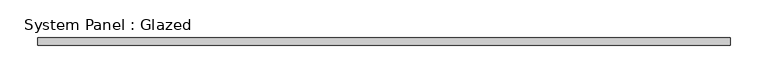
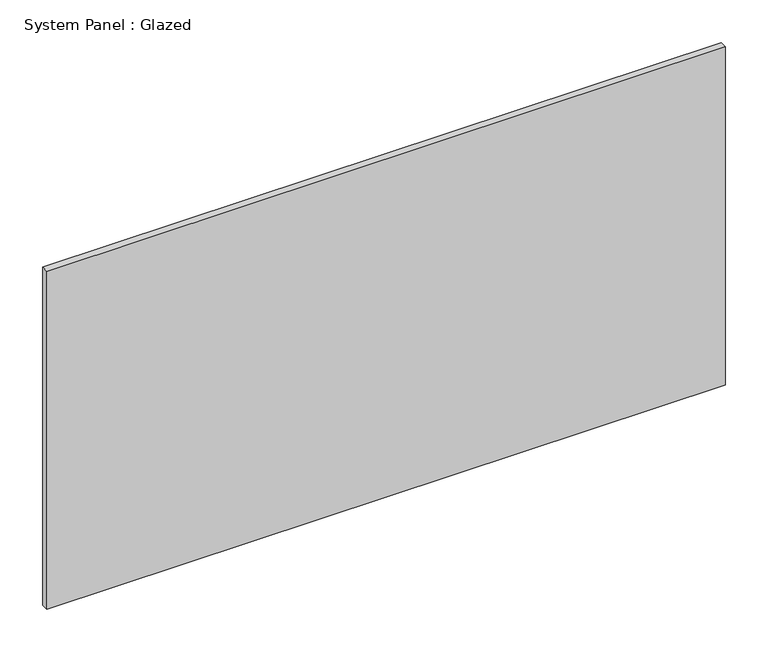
"""IFC4 building model written with IfcOpenShell, lengths in millimetres: plate geometry, System Panel : Glazed."""

import ifcopenshell
import ifcopenshell.guid

model = None  # the IFC model being written
_history = None  # IfcOwnerHistory: only IFC2X3 demands one
_inside = {}  # id of a spatial element -> (the spatial element, [elements in it])
_under = {}  # id of a project, library or spatial element -> (it, [spatial elements below it])
_declared = {}  # id of a project -> (the project, [libraries it declares])
_typed = {}  # id of a type object -> (the type object, [elements of that type])
_made_of = {}  # id of a material, layer set ... -> (it, [elements and type objects made of it])


def new_model(schema):
    """Start an empty IFC model of exactly this schema.

    Asked for "IFC4X3", IfcOpenShell would pick the latest addendum, in which some entities
    have other attributes; the version numbers below select the first issue.
    IFC2X3 requires an IfcOwnerHistory on every rooted entity: one is made here for all.
    """
    global model, _history
    if schema == "IFC4X3":
        model = ifcopenshell.file(schema_version=(4, 3, 0, 0))
    else:
        model = ifcopenshell.file(schema=schema)
    _inside.clear()
    _under.clear()
    _declared.clear()
    _typed.clear()
    _made_of.clear()
    _history = None
    if model.schema == "IFC2X3":
        org = make("IfcOrganization", Name="unknown")
        user = make(
            "IfcPersonAndOrganization",
            ThePerson=make("IfcPerson", FamilyName="unknown"),
            TheOrganization=org,
        )
        app = make(
            "IfcApplication",
            ApplicationDeveloper=org,
            Version="unknown",
            ApplicationFullName="unknown",
            ApplicationIdentifier="unknown",
        )
        _history = make(
            "IfcOwnerHistory",
            OwningUser=user,
            OwningApplication=app,
            ChangeAction="ADDED",
            CreationDate=0,
        )
    return model


def make(cls, **values):
    """One entity of the class cls with the attributes given. An attribute that is None is left unset."""
    return model.create_entity(
        cls, **{name: value for name, value in values.items() if value is not None}
    )


def rooted(cls, **values):
    """An entity with a GlobalId (a new one), such as an element, a storey or a relation."""
    return make(cls, GlobalId=ifcopenshell.guid.new(), OwnerHistory=_history, **values)


def si_unit(unit_type, name, prefix=None):
    """IfcSIUnit, for example si_unit("LENGTHUNIT", "METRE", prefix="MILLI")."""
    return make("IfcSIUnit", UnitType=unit_type, Prefix=prefix, Name=name)


def assignment(units):
    """IfcUnitAssignment: the units of a project."""
    return None if units is None else make("IfcUnitAssignment", Units=units)


def point(xyz):
    """IfcCartesianPoint."""
    return None if xyz is None else make("IfcCartesianPoint", Coordinates=xyz)


def direction(xyz):
    """IfcDirection."""
    return None if xyz is None else make("IfcDirection", DirectionRatios=xyz)


def frame(location, z_axis=None, x_axis=None):
    """IfcAxis2Placement3D, a coordinate frame: its origin and axes. An axis left out is left unset."""
    return make(
        "IfcAxis2Placement3D",
        Location=point(location),
        Axis=direction(z_axis),
        RefDirection=direction(x_axis),
    )


def origin():
    """The frame at (0, 0, 0) with its axes left unset."""
    return frame((0.0, 0.0, 0.0))


def origin_with_axes():
    """The frame at (0, 0, 0) with the z axis (0, 0, 1) and the x axis (1, 0, 0) written out."""
    return frame((0.0, 0.0, 0.0), z_axis=(0.0, 0.0, 1.0), x_axis=(1.0, 0.0, 0.0))


def place(relative_to, where):
    """IfcLocalPlacement: puts the frame where relative to a parent placement (None: the world)."""
    return make(
        "IfcLocalPlacement", PlacementRelTo=relative_to, RelativePlacement=where
    )


def context(
    kind, dimensions, precision=None, world=None, true_north=None, identifier=None
):
    """IfcGeometricRepresentationContext, for example the 3D "Model" context."""
    return make(
        "IfcGeometricRepresentationContext",
        ContextIdentifier=identifier,
        ContextType=kind,
        CoordinateSpaceDimension=dimensions,
        Precision=precision,
        WorldCoordinateSystem=world,
        TrueNorth=true_north,
    )


def project(units=None, contexts=None):
    """IfcProject with its units and contexts."""
    return rooted(
        "IfcProject",
        Name="project",
        RepresentationContexts=contexts,
        UnitsInContext=assignment(units),
    )


def spatial(cls, under=None, at=None, **own):
    """A site, building, storey or space (cls), placed at a placement, below another one or the project."""
    s = rooted(cls, ObjectPlacement=at, **own)
    if under is not None:
        _under.setdefault(under.id(), (under, []))[1].append(s)
    return s


def polyline(points):
    """IfcPolyline through the points."""
    return make("IfcPolyline", Points=[point(p) for p in points])


def outline(outer, holes=None, kind="AREA"):
    """IfcArbitraryClosedProfileDef: a profile drawn as a closed curve; with holes, ...WithVoids."""
    if holes is None:
        return make("IfcArbitraryClosedProfileDef", ProfileType=kind, OuterCurve=outer)
    return make(
        "IfcArbitraryProfileDefWithVoids",
        ProfileType=kind,
        OuterCurve=outer,
        InnerCurves=holes,
    )


def extrude(swept, where, along, depth):
    """IfcExtrudedAreaSolid: the profile swept, set in the frame where, extruded along a direction by depth."""
    return make(
        "IfcExtrudedAreaSolid",
        SweptArea=swept,
        Position=where,
        ExtrudedDirection=direction(along),
        Depth=depth,
    )


def shape(context_of_items, identifier, shape_type, items):
    """IfcShapeRepresentation: the items that make up one representation, for example the "Body"."""
    return make(
        "IfcShapeRepresentation",
        ContextOfItems=context_of_items,
        RepresentationIdentifier=identifier,
        RepresentationType=shape_type,
        Items=items,
    )


def source(mapping_origin, context_of_items, identifier, shape_type, items):
    """IfcRepresentationMap: a shape defined once, which mapped items show again and again."""
    return make(
        "IfcRepresentationMap",
        MappingOrigin=mapping_origin,
        MappedRepresentation=shape(context_of_items, identifier, shape_type, items),
    )


def transform(
    local_origin,
    x_axis=None,
    y_axis=None,
    z_axis=None,
    scale=None,
    scale2=None,
    scale3=None,
    uniform=True,
):
    """IfcCartesianTransformationOperator3D, or its non-uniform kind. x_axis, y_axis, z_axis: its Axis1, 2, 3."""
    if uniform:
        return make(
            "IfcCartesianTransformationOperator3D",
            Axis1=direction(x_axis),
            Axis2=direction(y_axis),
            LocalOrigin=point(local_origin),
            Scale=scale,
            Axis3=direction(z_axis),
        )
    return make(
        "IfcCartesianTransformationOperator3DnonUniform",
        Axis1=direction(x_axis),
        Axis2=direction(y_axis),
        LocalOrigin=point(local_origin),
        Scale=scale,
        Axis3=direction(z_axis),
        Scale2=scale2,
        Scale3=scale3,
    )


def mapped(mapping_source, mapping_target):
    """IfcMappedItem: shows the shape of a source again, moved by a transform."""
    return make(
        "IfcMappedItem", MappingSource=mapping_source, MappingTarget=mapping_target
    )


def made_of(thing, what):
    """Note that an element or type object is made of a material, layer set ...; save() writes the relation."""
    if what is not None:
        _made_of.setdefault(what.id(), (what, []))[1].append(thing)
    return thing


def element(
    cls,
    number,
    at=None,
    inside=None,
    cuts=None,
    type_object=None,
    material=None,
    context=None,
    identifier="Body",
    shape_type=None,
    held_by="IfcProductDefinitionShape",
    body=None,
    shapes=None,
    **own,
):
    """One element of the class cls, such as IfcWall. Its Tag is "e" and its number.

    at: its placement. inside: the storey or other place that contains it. cuts: it is an
    opening in that element (IfcRelVoidsElement). A single representation is given by context,
    identifier, shape_type and body (its items); several are given by shapes. held_by: the class
    of the entity that holds the representations. save() writes the other relations.
    """
    e = rooted(cls, Tag="e%d" % number, ObjectPlacement=at, **own)
    if body is not None:
        shapes = [shape(context, identifier, shape_type, body)]
    if shapes is not None:
        e.Representation = make(held_by, Representations=shapes)
    if inside is not None:
        _inside.setdefault(inside.id(), (inside, []))[1].append(e)
    if cuts is not None:
        rooted(
            "IfcRelVoidsElement", RelatingBuildingElement=cuts, RelatedOpeningElement=e
        )
    if type_object is not None:
        _typed.setdefault(type_object.id(), (type_object, []))[1].append(e)
    return made_of(e, material)


def aggregate(whole, parts):
    """IfcRelAggregates: a whole, such as a stair, and the parts it consists of."""
    return rooted("IfcRelAggregates", RelatingObject=whole, RelatedObjects=parts)


def save(model, path):
    """Write the relations noted so far, then the file.

    IfcRelAggregates (storeys below a building ...), IfcRelContainedInSpatialStructure (elements
    in a storey), IfcRelDefinesByType, IfcRelAssociatesMaterial and IfcRelDeclares: one each for
    every whole, place, type object, material and project.
    """
    for whole, parts in _under.values():
        aggregate(whole, parts)
    for where, things in _inside.values():
        rooted(
            "IfcRelContainedInSpatialStructure",
            RelatedElements=things,
            RelatingStructure=where,
        )
    for kind, things in _typed.values():
        rooted("IfcRelDefinesByType", RelatedObjects=things, RelatingType=kind)
    for what, things in _made_of.values():
        rooted("IfcRelAssociatesMaterial", RelatedObjects=things, RelatingMaterial=what)
    for by, libraries in _declared.values():
        rooted("IfcRelDeclares", RelatingContext=by, RelatedDefinitions=libraries)
    model.write(path)


def system_panel_glazed_16c97444(model_context):
    return source(origin(), model_context, "Body", "SweptSolid", [
        extrude(outline(polyline([(460.0825808, -5.0), (-460.0825808, -5.0), (-460.0825808, 5.0), (460.0825808, 5.0), (460.0825808, -5.0)])), origin_with_axes(), (0.0, 0.0, 1.0), 485.0),
    ])


if __name__ == "__main__":
    model = new_model("IFC4")
    model_context = context("Model", 3, world=origin())
    ifc_project = project(units=[si_unit("LENGTHUNIT", "METRE", prefix="MILLI")], contexts=[model_context])
    site = spatial("IfcSite", under=ifc_project)
    building = spatial("IfcBuilding", under=site)
    placement = place(None, origin())
    system_panel_glazed_shape = system_panel_glazed_16c97444(model_context)
    element("IfcPlate", 1, ObjectType="System Panel : Glazed", at=placement, inside=building, context=model_context, shape_type="MappedRepresentation", body=[
        mapped(system_panel_glazed_shape, transform((0.0, 0.0, 0.0), x_axis=(1.0, 0.0, 0.0), y_axis=(0.0, 1.0, 0.0), z_axis=(0.0, 0.0, 1.0))),
    ])
    save(model, "model.ifc")
